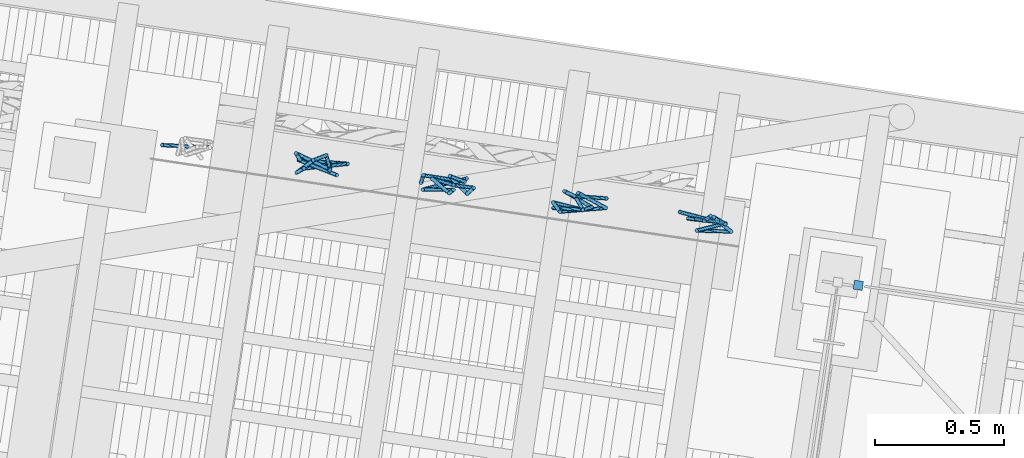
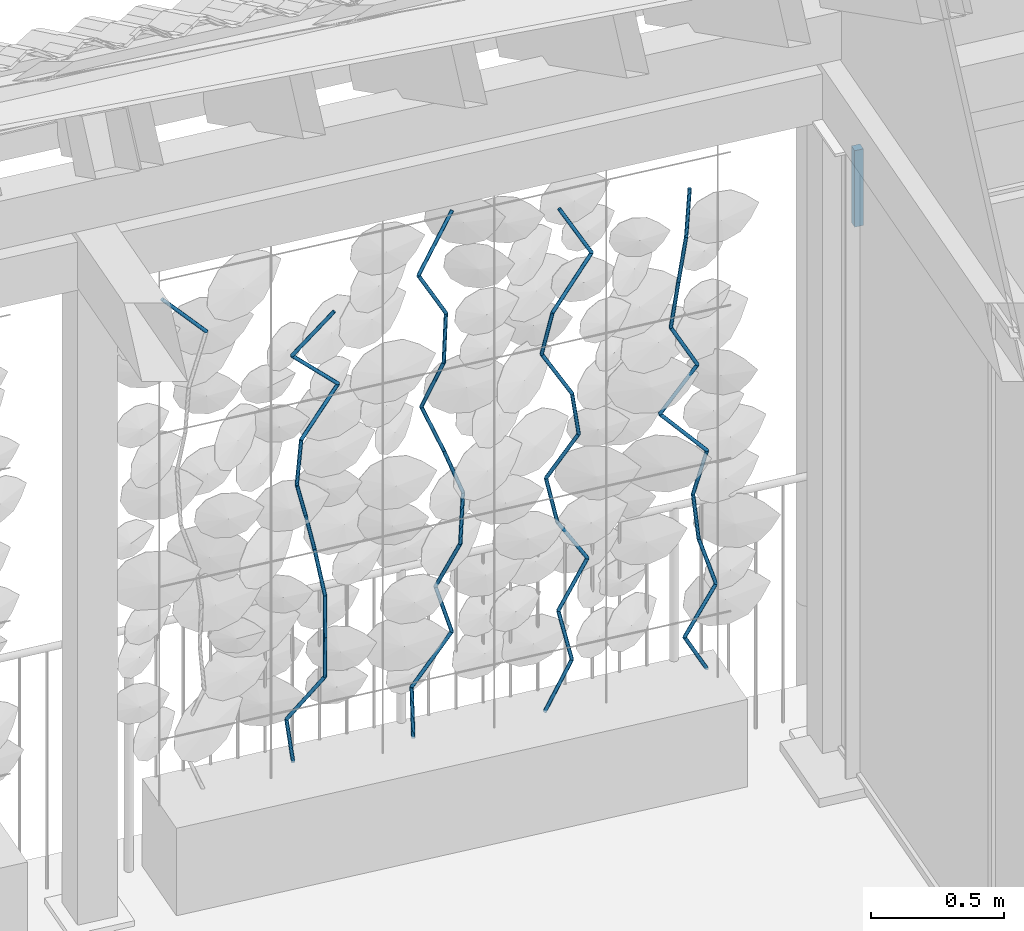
# One storey, part 109 of 131: 46 members, 1 element without a shape of its own.
"""IFC4 building model written with IfcOpenShell, lengths in metres."""

import ifcopenshell
import ifcopenshell.guid

model = None  # the IFC model being written
_history = None  # IfcOwnerHistory: only IFC2X3 demands one
_inside = {}  # id of a spatial element -> (the spatial element, [elements in it])
_under = {}  # id of a project, library or spatial element -> (it, [spatial elements below it])
_declared = {}  # id of a project -> (the project, [libraries it declares])
_typed = {}  # id of a type object -> (the type object, [elements of that type])
_made_of = {}  # id of a material, layer set ... -> (it, [elements and type objects made of it])


def new_model(schema):
    """Start an empty IFC model of exactly this schema.

    Asked for "IFC4X3", IfcOpenShell would pick the latest addendum, in which some entities
    have other attributes; the version numbers below select the first issue.
    IFC2X3 requires an IfcOwnerHistory on every rooted entity: one is made here for all.
    """
    global model, _history
    if schema == "IFC4X3":
        model = ifcopenshell.file(schema_version=(4, 3, 0, 0))
    else:
        model = ifcopenshell.file(schema=schema)
    _inside.clear()
    _under.clear()
    _declared.clear()
    _typed.clear()
    _made_of.clear()
    _history = None
    if model.schema == "IFC2X3":
        org = make("IfcOrganization", Name="unknown")
        user = make(
            "IfcPersonAndOrganization",
            ThePerson=make("IfcPerson", FamilyName="unknown"),
            TheOrganization=org,
        )
        app = make(
            "IfcApplication",
            ApplicationDeveloper=org,
            Version="unknown",
            ApplicationFullName="unknown",
            ApplicationIdentifier="unknown",
        )
        _history = make(
            "IfcOwnerHistory",
            OwningUser=user,
            OwningApplication=app,
            ChangeAction="ADDED",
            CreationDate=0,
        )
    return model


def make(cls, **values):
    """One entity of the class cls with the attributes given. An attribute that is None is left unset."""
    return model.create_entity(
        cls, **{name: value for name, value in values.items() if value is not None}
    )


def rooted(cls, **values):
    """An entity with a GlobalId (a new one), such as an element, a storey or a relation."""
    return make(cls, GlobalId=ifcopenshell.guid.new(), OwnerHistory=_history, **values)


def si_unit(unit_type, name, prefix=None):
    """IfcSIUnit, for example si_unit("LENGTHUNIT", "METRE", prefix="MILLI")."""
    return make("IfcSIUnit", UnitType=unit_type, Prefix=prefix, Name=name)


def assignment(units):
    """IfcUnitAssignment: the units of a project."""
    return None if units is None else make("IfcUnitAssignment", Units=units)


def point(xyz):
    """IfcCartesianPoint."""
    return None if xyz is None else make("IfcCartesianPoint", Coordinates=xyz)


def direction(xyz):
    """IfcDirection."""
    return None if xyz is None else make("IfcDirection", DirectionRatios=xyz)


def frame(location, z_axis=None, x_axis=None):
    """IfcAxis2Placement3D, a coordinate frame: its origin and axes. An axis left out is left unset."""
    return make(
        "IfcAxis2Placement3D",
        Location=point(location),
        Axis=direction(z_axis),
        RefDirection=direction(x_axis),
    )


def origin_with_axes():
    """The frame at (0, 0, 0) with the z axis (0, 0, 1) and the x axis (1, 0, 0) written out."""
    return frame((0.0, 0.0, 0.0), z_axis=(0.0, 0.0, 1.0), x_axis=(1.0, 0.0, 0.0))


def place(relative_to, where):
    """IfcLocalPlacement: puts the frame where relative to a parent placement (None: the world)."""
    return make(
        "IfcLocalPlacement", PlacementRelTo=relative_to, RelativePlacement=where
    )


def context(
    kind, dimensions, precision=None, world=None, true_north=None, identifier=None
):
    """IfcGeometricRepresentationContext, for example the 3D "Model" context."""
    return make(
        "IfcGeometricRepresentationContext",
        ContextIdentifier=identifier,
        ContextType=kind,
        CoordinateSpaceDimension=dimensions,
        Precision=precision,
        WorldCoordinateSystem=world,
        TrueNorth=true_north,
    )


def subcontext(parent, identifier, kind, view, scale=None):
    """IfcGeometricRepresentationSubContext, for example "Body" below "Model"."""
    return make(
        "IfcGeometricRepresentationSubContext",
        ContextIdentifier=identifier,
        ContextType=kind,
        ParentContext=parent,
        TargetScale=scale,
        TargetView=view,
    )


def project(units=None, contexts=None):
    """IfcProject with its units and contexts."""
    return rooted(
        "IfcProject",
        Name="project",
        RepresentationContexts=contexts,
        UnitsInContext=assignment(units),
    )


def spatial(cls, under=None, at=None, **own):
    """A site, building, storey or space (cls), placed at a placement, below another one or the project."""
    s = rooted(cls, ObjectPlacement=at, **own)
    if under is not None:
        _under.setdefault(under.id(), (under, []))[1].append(s)
    return s


def profile(cls, at=None, kind="AREA", **sizes):
    """A parametric profile (cls). Its sizes go by their IFC names, for example OverallWidth=200.0."""
    return make(cls, ProfileType=kind, Position=at, **sizes)


def rectangle(**sizes):
    """IfcRectangleProfileDef."""
    return profile("IfcRectangleProfileDef", **sizes)


def circle(**sizes):
    """IfcCircleProfileDef."""
    return profile("IfcCircleProfileDef", **sizes)


def extrude(swept, where, along, depth):
    """IfcExtrudedAreaSolid: the profile swept, set in the frame where, extruded along a direction by depth."""
    return make(
        "IfcExtrudedAreaSolid",
        SweptArea=swept,
        Position=where,
        ExtrudedDirection=direction(along),
        Depth=depth,
    )


def shape(context_of_items, identifier, shape_type, items):
    """IfcShapeRepresentation: the items that make up one representation, for example the "Body"."""
    return make(
        "IfcShapeRepresentation",
        ContextOfItems=context_of_items,
        RepresentationIdentifier=identifier,
        RepresentationType=shape_type,
        Items=items,
    )


def material(Name=None, Category=None):
    """IfcMaterial."""
    return make("IfcMaterial", Name=Name, Category=Category)


def material_profile(
    of_material, cross_section, Name=None, Category=None, Priority=None
):
    """IfcMaterialProfile: a cross section and its material."""
    return make(
        "IfcMaterialProfile",
        Name=Name,
        Material=of_material,
        Profile=cross_section,
        Priority=Priority,
        Category=Category,
    )


def profile_set(profiles, Name=None, composite=None):
    """IfcMaterialProfileSet."""
    return make(
        "IfcMaterialProfileSet",
        Name=Name,
        MaterialProfiles=profiles,
        CompositeProfile=composite,
    )


def profile_usage(for_profile_set, cardinal=None, extent=None):
    """IfcMaterialProfileSetUsage: how a profile set lies along its element."""
    return make(
        "IfcMaterialProfileSetUsage",
        ForProfileSet=for_profile_set,
        CardinalPoint=cardinal,
        ReferenceExtent=extent,
    )


def made_of(thing, what):
    """Note that an element or type object is made of a material, layer set ...; save() writes the relation."""
    if what is not None:
        _made_of.setdefault(what.id(), (what, []))[1].append(thing)
    return thing


def type_object(cls, material=None, **own):
    """A type object (cls), such as IfcWallType, which elements share."""
    return made_of(rooted(cls, **own), material)


def element(
    cls,
    number,
    at=None,
    inside=None,
    cuts=None,
    type_object=None,
    material=None,
    context=None,
    identifier="Body",
    shape_type=None,
    held_by="IfcProductDefinitionShape",
    body=None,
    shapes=None,
    **own,
):
    """One element of the class cls, such as IfcWall. Its Tag is "e" and its number.

    at: its placement. inside: the storey or other place that contains it. cuts: it is an
    opening in that element (IfcRelVoidsElement). A single representation is given by context,
    identifier, shape_type and body (its items); several are given by shapes. held_by: the class
    of the entity that holds the representations. save() writes the other relations.
    """
    e = rooted(cls, Tag="e%d" % number, ObjectPlacement=at, **own)
    if body is not None:
        shapes = [shape(context, identifier, shape_type, body)]
    if shapes is not None:
        e.Representation = make(held_by, Representations=shapes)
    if inside is not None:
        _inside.setdefault(inside.id(), (inside, []))[1].append(e)
    if cuts is not None:
        rooted(
            "IfcRelVoidsElement", RelatingBuildingElement=cuts, RelatedOpeningElement=e
        )
    if type_object is not None:
        _typed.setdefault(type_object.id(), (type_object, []))[1].append(e)
    return made_of(e, material)


def aggregate(whole, parts):
    """IfcRelAggregates: a whole, such as a stair, and the parts it consists of."""
    return rooted("IfcRelAggregates", RelatingObject=whole, RelatedObjects=parts)


def save(model, path):
    """Write the relations noted so far, then the file.

    IfcRelAggregates (storeys below a building ...), IfcRelContainedInSpatialStructure (elements
    in a storey), IfcRelDefinesByType, IfcRelAssociatesMaterial and IfcRelDeclares: one each for
    every whole, place, type object, material and project.
    """
    for whole, parts in _under.values():
        aggregate(whole, parts)
    for where, things in _inside.values():
        rooted(
            "IfcRelContainedInSpatialStructure",
            RelatedElements=things,
            RelatingStructure=where,
        )
    for kind, things in _typed.values():
        rooted("IfcRelDefinesByType", RelatedObjects=things, RelatingType=kind)
    for what, things in _made_of.values():
        rooted("IfcRelAssociatesMaterial", RelatedObjects=things, RelatingMaterial=what)
    for by, libraries in _declared.values():
        rooted("IfcRelDeclares", RelatingContext=by, RelatedDefinitions=libraries)
    model.write(path)


model = new_model("IFC4")

# Units and contexts
model_context = context("Model", 3, precision=1e-05, world=origin_with_axes(), true_north=direction((0.0, 1.0)))
body_context = subcontext(model_context, "Body", "Model", "MODEL_VIEW")
ifc_project = project(units=[si_unit("VOLUMEUNIT", "CUBIC_METRE"), si_unit("LENGTHUNIT", "METRE"), si_unit("AREAUNIT", "SQUARE_METRE")], contexts=[model_context])

# Site, building, storey
site_placement = place(None, origin_with_axes())
site = spatial("IfcSite", under=ifc_project, at=site_placement, Name="Lares · Rua das Mercês · artigo 4771")
building_placement = place(site_placement, frame((15.0, 9.7, 15.8), z_axis=(0.0, 0.0, 1.0), x_axis=(0.989015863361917, -0.147809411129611, 0.0)))
building = spatial("IfcBuilding", under=site, at=building_placement, Name="Casa Sobreposta")
storey_placement = place(building_placement, origin_with_axes())
storey = spatial("IfcBuildingStorey", under=building, at=storey_placement, Name="00 · Habitação e estacionamento", Elevation=15.8)

# Member
ifc_material_1 = material(Name="Aço pintado / Stahl lackiert", Category="steel")
ifc_material_profile_1 = material_profile(ifc_material_1, rectangle(XDim=0.035, YDim=0.035))
ifc_profile_set_1 = profile_set([ifc_material_profile_1], Name="R0.035")
ifc_profile_usage_1 = profile_usage(ifc_profile_set_1)
member_type_1 = type_object("IfcMemberType", Name="R0.035 / steel", PredefinedType="NOTDEFINED", material=ifc_profile_set_1)
member_1_placement = place(storey_placement, frame((0.08, 6.4, 2.35), z_axis=(0.0, 0.0, 1.0), x_axis=(1.0, 0.0, 0.0)))
element("IfcMember", 1, at=member_1_placement, inside=storey, type_object=member_type_1, material=ifc_profile_usage_1, Name="Rasgo norte 1 · montante", context=body_context, shape_type="SweptSolid", body=[
    extrude(rectangle(XDim=0.035, YDim=0.035), origin_with_axes(), (0.0, 0.0, 1.0), 0.35),
])

# Assembly, members
assembly_placement = place(storey_placement, origin_with_axes())
assembly = element("IfcElementAssembly", 2, at=assembly_placement, inside=storey, Name="Fachada sul e pátio · estrutura e trepadeiras", ObjectType="LIVING_SHADE_TRELLIS", PredefinedType="USERDEFINED")
ifc_material_2 = material(Name="Ramos de trepadeiras", Category="wood")
ifc_material_profile_2 = material_profile(ifc_material_2, circle(Radius=0.0075))
ifc_profile_set_2 = profile_set([ifc_material_profile_2], Name="D0.015")
ifc_profile_usage_2 = profile_usage(ifc_profile_set_2)
member_type_2 = type_object("IfcMemberType", Name="D0.015 / vine_wood", PredefinedType="NOTDEFINED", material=ifc_profile_set_2)
member_2_placement = place(assembly_placement, frame((-2.48019557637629, 6.55666589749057, 2.412926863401), z_axis=(-0.666168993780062, -0.0655606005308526, 0.742913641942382), x_axis=(-0.0979412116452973, 0.995192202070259, 0.0)))
member_2 = element("IfcMember", 3, at=member_2_placement, type_object=member_type_2, material=ifc_profile_usage_2, Name="Trepadeiras · ramo", context=body_context, shape_type="SweptSolid", body=[
    extrude(circle(Radius=0.0075), origin_with_axes(), (0.0, 0.0, 1.0), 0.277680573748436),
])
ifc_profile_usage_3 = profile_usage(ifc_profile_set_2)
member_3_placement = place(assembly_placement, frame((-2.12881280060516, 6.56112979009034, 0.35), z_axis=(-0.0978339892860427, 0.117862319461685, 0.988198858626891), x_axis=(0.769454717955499, 0.638701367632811, 0.0)))
member_3 = element("IfcMember", 4, at=member_3_placement, type_object=member_type_2, material=ifc_profile_usage_3, Name="Trepadeiras · ramo", context=body_context, shape_type="SweptSolid", body=[
    extrude(circle(Radius=0.0075), origin_with_axes(), (0.0, 0.0, 1.0), 0.188376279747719),
])
ifc_profile_usage_4 = profile_usage(ifc_profile_set_2)
member_4_placement = place(assembly_placement, frame((-2.14724240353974, 6.58333225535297, 0.536153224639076), z_axis=(0.587735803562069, -0.176646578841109, 0.789533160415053), x_axis=(-0.287834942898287, -0.95768003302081, 0.0)))
member_4 = element("IfcMember", 5, at=member_4_placement, type_object=member_type_2, material=ifc_profile_usage_4, Name="Trepadeiras · ramo", context=body_context, shape_type="SweptSolid", body=[
    extrude(circle(Radius=0.0075), origin_with_axes(), (0.0, 0.0, 1.0), 0.235776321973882),
])
ifc_profile_usage_5 = profile_usage(ifc_profile_set_2)
member_5_placement = place(assembly_placement, frame((-2.00866821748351, 6.54168317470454, 0.722306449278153), z_axis=(-0.00319895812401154, -0.025079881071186, 0.99968033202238), x_axis=(0.99999488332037, -8.02298998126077e-05, 0.0031979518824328)))
member_5 = element("IfcMember", 6, at=member_5_placement, type_object=member_type_2, material=ifc_profile_usage_5, Name="Trepadeiras · ramo", context=body_context, shape_type="SweptSolid", body=[
    extrude(circle(Radius=0.0075), origin_with_axes(), (0.0, 0.0, 1.0), 0.186212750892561),
])
ifc_profile_usage_6 = profile_usage(ifc_profile_set_2)
member_6_placement = place(assembly_placement, frame((-2.00926390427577, 6.53701298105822, 0.908459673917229), z_axis=(0.00638824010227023, 0.031882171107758, 0.999471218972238), x_axis=(0.999979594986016, -0.000203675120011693, -0.00638499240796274)))
member_6 = element("IfcMember", 7, at=member_6_placement, type_object=member_type_2, material=ifc_profile_usage_6, Name="Trepadeiras · ramo", context=body_context, shape_type="SweptSolid", body=[
    extrude(circle(Radius=0.0075), origin_with_axes(), (0.0, 0.0, 1.0), 0.186251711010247),
])
ifc_profile_usage_7 = profile_usage(ifc_profile_set_2)
member_7_placement = place(assembly_placement, frame((-2.00807408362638, 6.54295108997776, 1.09461289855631), z_axis=(-0.116941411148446, 0.258900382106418, 0.958798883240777), x_axis=(0.911345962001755, 0.411641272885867, 0.0)))
member_7 = element("IfcMember", 8, at=member_7_placement, type_object=member_type_2, material=ifc_profile_usage_7, Name="Trepadeiras · ramo", context=body_context, shape_type="SweptSolid", body=[
    extrude(circle(Radius=0.0075), origin_with_axes(), (0.0, 0.0, 1.0), 0.194152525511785),
])
ifc_profile_usage_8 = profile_usage(ifc_profile_set_2)
member_8_placement = place(assembly_placement, frame((-2.03077855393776, 6.59321725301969, 1.28076612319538), z_axis=(-0.242041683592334, -0.138462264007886, 0.9603353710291), x_axis=(-0.496551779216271, 0.868007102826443, 2.38971597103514e-17)))
member_8 = element("IfcMember", 9, at=member_8_placement, type_object=member_type_2, material=ifc_profile_usage_8, Name="Trepadeiras · ramo", context=body_context, shape_type="SweptSolid", body=[
    extrude(circle(Radius=0.0075), origin_with_axes(), (0.0, 0.0, 1.0), 0.193841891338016),
])
ifc_profile_usage_9 = profile_usage(ifc_profile_set_2)
member_9_placement = place(assembly_placement, frame((-2.07769637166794, 6.56637746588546, 1.46691934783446), z_axis=(-0.278600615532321, -0.277896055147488, 0.919323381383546), x_axis=(-0.7062109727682, 0.708001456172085, 3.24220616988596e-17)))
member_9 = element("IfcMember", 10, at=member_9_placement, type_object=member_type_2, material=ifc_profile_usage_9, Name="Trepadeiras · ramo", context=body_context, shape_type="SweptSolid", body=[
    extrude(circle(Radius=0.0075), origin_with_axes(), (0.0, 0.0, 1.0), 0.202489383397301),
])
ifc_profile_usage_10 = profile_usage(ifc_profile_set_2)
member_10_placement = place(assembly_placement, frame((-2.13411003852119, 6.5101064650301, 1.65307257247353), z_axis=(0.135286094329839, 0.106592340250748, 0.985056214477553), x_axis=(0.618884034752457, -0.785482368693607, 0.0)))
member_10 = element("IfcMember", 11, at=member_10_placement, type_object=member_type_2, material=ifc_profile_usage_10, Name="Trepadeiras · ramo", context=body_context, shape_type="SweptSolid", body=[
    extrude(circle(Radius=0.0075), origin_with_axes(), (0.0, 0.0, 1.0), 0.188977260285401),
])
ifc_profile_usage_11 = profile_usage(ifc_profile_set_2)
member_11_placement = place(assembly_placement, frame((-2.10854404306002, 6.53024999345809, 1.83922579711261), z_axis=(0.655164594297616, 0.169762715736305, 0.736165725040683), x_axis=(0.250830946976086, -0.968030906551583, 0.0)))
member_11 = element("IfcMember", 12, at=member_11_placement, type_object=member_type_2, material=ifc_profile_usage_11, Name="Trepadeiras · ramo", context=body_context, shape_type="SweptSolid", body=[
    extrude(circle(Radius=0.0075), origin_with_axes(), (0.0, 0.0, 1.0), 0.252868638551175),
])
ifc_profile_usage_12 = profile_usage(ifc_profile_set_2)
member_12_placement = place(assembly_placement, frame((-1.94287346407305, 6.57317766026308, 2.02537902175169), z_axis=(-0.716183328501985, -0.0508556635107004, 0.696056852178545), x_axis=(-0.070830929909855, 0.997488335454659, 0.0)))
member_12 = element("IfcMember", 13, at=member_12_placement, type_object=member_type_2, material=ifc_profile_usage_12, Name="Trepadeiras · ramo", context=body_context, shape_type="SweptSolid", body=[
    extrude(circle(Radius=0.0075), origin_with_axes(), (0.0, 0.0, 1.0), 0.267439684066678),
])
ifc_profile_usage_13 = profile_usage(ifc_profile_set_2)
member_13_placement = place(assembly_placement, frame((-2.13440930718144, 6.55957683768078, 2.21153224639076), z_axis=(0.63529697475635, -0.147614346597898, 0.758028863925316), x_axis=(-0.226325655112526, -0.974051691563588, 0.0)))
member_13 = element("IfcMember", 14, at=member_13_placement, type_object=member_type_2, material=ifc_profile_usage_13, Name="Trepadeiras · ramo", context=body_context, shape_type="SweptSolid", body=[
    extrude(circle(Radius=0.0075), origin_with_axes(), (0.0, 0.0, 1.0), 0.245575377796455),
])
ifc_profile_usage_14 = profile_usage(ifc_profile_set_2)
member_14_placement = place(assembly_placement, frame((-1.65199324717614, 6.54323763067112, 0.35), z_axis=(0.0217356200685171, 0.135043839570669, 0.990601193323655), x_axis=(0.987293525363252, -0.158907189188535, 0.0)))
member_14 = element("IfcMember", 15, at=member_14_placement, type_object=member_type_2, material=ifc_profile_usage_14, Name="Trepadeiras · ramo", context=body_context, shape_type="SweptSolid", body=[
    extrude(circle(Radius=0.0075), origin_with_axes(), (0.0, 0.0, 1.0), 0.214939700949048),
])
ifc_profile_usage_15 = profile_usage(ifc_profile_set_2)
member_15_placement = place(assembly_placement, frame((-1.64732139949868, 6.57226391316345, 0.562919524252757), z_axis=(0.604182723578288, -0.0026727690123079, 0.796841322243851), x_axis=(-0.00442373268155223, -0.99999021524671, 2.8598256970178e-19)))
member_15 = element("IfcMember", 16, at=member_15_placement, type_object=member_type_2, material=ifc_profile_usage_15, Name="Trepadeiras · ramo", context=body_context, shape_type="SweptSolid", body=[
    extrude(circle(Radius=0.0075), origin_with_axes(), (0.0, 0.0, 1.0), 0.267204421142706),
])
ifc_profile_usage_16 = profile_usage(ifc_profile_set_2)
member_16_placement = place(assembly_placement, frame((-1.48588110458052, 6.57154973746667, 0.775839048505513), z_axis=(-0.273756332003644, 0.0590464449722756, 0.959984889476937), x_axis=(0.210841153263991, 0.97752033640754, 0.0)))
member_16 = element("IfcMember", 17, at=member_16_placement, type_object=member_type_2, material=ifc_profile_usage_16, Name="Trepadeiras · ramo", context=body_context, shape_type="SweptSolid", body=[
    extrude(circle(Radius=0.0075), origin_with_axes(), (0.0, 0.0, 1.0), 0.221794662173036),
])
ifc_profile_usage_17 = profile_usage(ifc_profile_set_2)
member_17_placement = place(assembly_placement, frame((-1.54659879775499, 6.58464592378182, 0.98875857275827), z_axis=(0.331473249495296, -0.245286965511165, 0.911021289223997), x_axis=(-0.594837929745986, -0.80384565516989, 0.0)))
member_17 = element("IfcMember", 18, at=member_17_placement, type_object=member_type_2, material=ifc_profile_usage_17, Name="Trepadeiras · ramo", context=body_context, shape_type="SweptSolid", body=[
    extrude(circle(Radius=0.0075), origin_with_axes(), (0.0, 0.0, 1.0), 0.233715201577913),
])
ifc_profile_usage_18 = profile_usage(ifc_profile_set_2)
member_18_placement = place(assembly_placement, frame((-1.46912846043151, 6.52731863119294, 1.20167809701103), z_axis=(0.0979338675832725, 0.120047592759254, 0.987925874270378), x_axis=(0.774864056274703, -0.63212790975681, 0.0)))
member_18 = element("IfcMember", 19, at=member_18_placement, type_object=member_type_2, material=ifc_profile_usage_18, Name="Trepadeiras · ramo", context=body_context, shape_type="SweptSolid", body=[
    extrude(circle(Radius=0.0075), origin_with_axes(), (0.0, 0.0, 1.0), 0.215521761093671),
])
ifc_profile_usage_19 = profile_usage(ifc_profile_set_2)
member_19_placement = place(assembly_placement, frame((-1.44802158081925, 6.55319149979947, 1.41459762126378), z_axis=(-0.345783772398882, -0.00554525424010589, 0.938297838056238), x_axis=(-0.0160347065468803, 0.999871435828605, 0.0)))
member_19 = element("IfcMember", 20, at=member_19_placement, type_object=member_type_2, material=ifc_profile_usage_19, Name="Trepadeiras · ramo", context=body_context, shape_type="SweptSolid", body=[
    extrude(circle(Radius=0.0075), origin_with_axes(), (0.0, 0.0, 1.0), 0.226921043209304),
])
ifc_profile_usage_20 = profile_usage(ifc_profile_set_2)
member_20_placement = place(assembly_placement, frame((-1.52648719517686, 6.55193316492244, 1.62751714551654), z_axis=(-0.370168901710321, 0.0545287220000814, 0.92736271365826), x_axis=(0.145734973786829, 0.989323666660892, 0.0)))
member_20 = element("IfcMember", 21, at=member_20_placement, type_object=member_type_2, material=ifc_profile_usage_20, Name="Trepadeiras · ramo", context=body_context, shape_type="SweptSolid", body=[
    extrude(circle(Radius=0.0075), origin_with_axes(), (0.0, 0.0, 1.0), 0.229596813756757),
])
ifc_profile_usage_21 = profile_usage(ifc_profile_set_2)
member_21_placement = place(assembly_placement, frame((-1.61147679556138, 6.56445278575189, 1.8404366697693), z_axis=(0.316430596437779, -0.198840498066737, 0.927541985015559), x_axis=(-0.532058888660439, -0.846707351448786, 0.0)))
member_21 = element("IfcMember", 22, at=member_21_placement, type_object=member_type_2, material=ifc_profile_usage_21, Name="Trepadeiras · ramo", context=body_context, shape_type="SweptSolid", body=[
    extrude(circle(Radius=0.0075), origin_with_axes(), (0.0, 0.0, 1.0), 0.22955243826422),
])
ifc_profile_usage_22 = profile_usage(ifc_profile_set_2)
member_22_placement = place(assembly_placement, frame((-1.53883938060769, 6.518808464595, 2.05335619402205), z_axis=(0.0684634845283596, 0.0708908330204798, 0.995131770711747), x_axis=(0.719314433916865, -0.694684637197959, 0.0)))
member_22 = element("IfcMember", 23, at=member_22_placement, type_object=member_type_2, material=ifc_profile_usage_22, Name="Trepadeiras · ramo", context=body_context, shape_type="SweptSolid", body=[
    extrude(circle(Radius=0.0075), origin_with_axes(), (0.0, 0.0, 1.0), 0.213961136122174),
])
ifc_profile_usage_23 = profile_usage(ifc_profile_set_2)
member_23_placement = place(assembly_placement, frame((-1.52419085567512, 6.53397634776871, 2.26627571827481), z_axis=(-0.482299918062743, -0.0693559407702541, 0.873256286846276), x_axis=(-0.142338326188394, 0.989818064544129, 0.0)))
member_23 = element("IfcMember", 24, at=member_23_placement, type_object=member_type_2, material=ifc_profile_usage_23, Name="Trepadeiras · ramo", context=body_context, shape_type="SweptSolid", body=[
    extrude(circle(Radius=0.0075), origin_with_axes(), (0.0, 0.0, 1.0), 0.243822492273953),
])
ifc_profile_usage_24 = profile_usage(ifc_profile_set_2)
member_24_placement = place(assembly_placement, frame((-1.6417864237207, 6.5170658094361, 2.47919524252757), z_axis=(0.588758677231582, 0.246174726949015, 0.769909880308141), x_axis=(0.385761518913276, -0.922598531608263, 0.0)))
member_24 = element("IfcMember", 25, at=member_24_placement, type_object=member_type_2, material=ifc_profile_usage_24, Name="Trepadeiras · ramo", context=body_context, shape_type="SweptSolid", body=[
    extrude(circle(Radius=0.0075), origin_with_axes(), (0.0, 0.0, 1.0), 0.276551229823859),
])
ifc_profile_usage_25 = profile_usage(ifc_profile_set_2)
member_25_placement = place(assembly_placement, frame((-1.13184917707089, 6.52103550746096, 0.35), z_axis=(0.489881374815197, 0.0482992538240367, 0.870450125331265), x_axis=(0.0981180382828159, -0.995174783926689, 0.0)))
member_25 = element("IfcMember", 26, at=member_25_placement, type_object=member_type_2, material=ifc_profile_usage_25, Name="Trepadeiras · ramo", context=body_context, shape_type="SweptSolid", body=[
    extrude(circle(Radius=0.0075), origin_with_axes(), (0.0, 0.0, 1.0), 0.233069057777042),
])
ifc_profile_usage_26 = profile_usage(ifc_profile_set_2)
member_26_placement = place(assembly_placement, frame((-1.01767298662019, 6.53229256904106, 0.552874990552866), z_axis=(-0.173785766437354, 0.21844401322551, 0.960250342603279), x_axis=(0.78256006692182, 0.622575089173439, 0.0)))
member_26 = element("IfcMember", 27, at=member_26_placement, type_object=member_type_2, material=ifc_profile_usage_26, Name="Trepadeiras · ramo", context=body_context, shape_type="SweptSolid", body=[
    extrude(circle(Radius=0.0075), origin_with_axes(), (0.0, 0.0, 1.0), 0.211273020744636),
])
ifc_profile_usage_27 = profile_usage(ifc_profile_set_2)
member_27_placement = place(assembly_placement, frame((-1.05438923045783, 6.5784438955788, 0.755749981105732), z_axis=(0.51379031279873, 0.0427134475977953, 0.856851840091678), x_axis=(0.0828482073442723, -0.99656217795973, 0.0)))
member_27 = element("IfcMember", 28, at=member_27_placement, type_object=member_type_2, material=ifc_profile_usage_27, Name="Trepadeiras · ramo", context=body_context, shape_type="SweptSolid", body=[
    extrude(circle(Radius=0.0075), origin_with_axes(), (0.0, 0.0, 1.0), 0.236767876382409),
])
ifc_profile_usage_28 = profile_usage(ifc_profile_set_2)
member_28_placement = place(assembly_placement, frame((-0.932740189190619, 6.5885570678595, 0.958624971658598), z_axis=(-0.524655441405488, -0.0395771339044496, 0.850394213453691), x_axis=(-0.0752208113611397, 0.99716690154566, 0.0)))
member_28 = element("IfcMember", 29, at=member_28_placement, type_object=member_type_2, material=ifc_profile_usage_28, Name="Trepadeiras · ramo", context=body_context, shape_type="SweptSolid", body=[
    extrude(circle(Radius=0.0075), origin_with_axes(), (0.0, 0.0, 1.0), 0.238565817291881),
])
ifc_profile_usage_29 = profile_usage(ifc_profile_set_2)
member_29_placement = place(assembly_placement, frame((-1.05790504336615, 6.57911531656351, 1.16149996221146), z_axis=(-0.196191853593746, 0.0616584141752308, 0.978625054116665), x_axis=(0.299818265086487, 0.95399633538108, 0.0)))
member_29 = element("IfcMember", 30, at=member_29_placement, type_object=member_type_2, material=ifc_profile_usage_29, Name="Trepadeiras · ramo", context=body_context, shape_type="SweptSolid", body=[
    extrude(circle(Radius=0.0075), origin_with_axes(), (0.0, 0.0, 1.0), 0.207306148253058),
])
ifc_profile_usage_30 = profile_usage(ifc_profile_set_2)
member_30_placement = place(assembly_placement, frame((-1.0985768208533, 6.59189748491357, 1.36437495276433), z_axis=(0.480884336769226, -0.19096728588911, 0.855734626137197), x_axis=(-0.369079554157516, -0.929397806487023, 0.0)))
member_30 = element("IfcMember", 31, at=member_30_placement, type_object=member_type_2, material=ifc_profile_usage_30, Name="Trepadeiras · ramo", context=body_context, shape_type="SweptSolid", body=[
    extrude(circle(Radius=0.0075), origin_with_axes(), (0.0, 0.0, 1.0), 0.237076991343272),
])
ifc_profile_usage_31 = profile_usage(ifc_profile_set_2)
member_31_placement = place(assembly_placement, frame((-0.984570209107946, 6.54662353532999, 1.5672499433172), z_axis=(-0.160191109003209, -0.0749405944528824, 0.984237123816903), x_axis=(-0.42374307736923, 0.905782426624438, 0.0)))
member_31 = element("IfcMember", 32, at=member_31_placement, type_object=member_type_2, material=ifc_profile_usage_31, Name="Trepadeiras · ramo", context=body_context, shape_type="SweptSolid", body=[
    extrude(circle(Radius=0.0075), origin_with_axes(), (0.0, 0.0, 1.0), 0.206124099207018),
])
ifc_profile_usage_32 = profile_usage(ifc_profile_set_2)
member_32_placement = place(assembly_placement, frame((-1.01758945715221, 6.53117647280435, 1.77012493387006), z_axis=(-0.501321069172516, 0.0491421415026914, 0.863864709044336), x_axis=(0.097557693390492, 0.995229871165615, 0.0)))
member_32 = element("IfcMember", 33, at=member_32_placement, type_object=member_type_2, material=ifc_profile_usage_32, Name="Trepadeiras · ramo", context=body_context, shape_type="SweptSolid", body=[
    extrude(circle(Radius=0.0075), origin_with_axes(), (0.0, 0.0, 1.0), 0.23484579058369),
])
ifc_profile_usage_33 = profile_usage(ifc_profile_set_2)
member_33_placement = place(assembly_placement, frame((-1.13532259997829, 6.54271729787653, 1.97299992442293), z_axis=(0.153315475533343, -0.151547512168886, 0.976487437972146), x_axis=(-0.702994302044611, -0.711195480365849, 0.0)))
member_33 = element("IfcMember", 34, at=member_33_placement, type_object=member_type_2, material=ifc_profile_usage_33, Name="Trepadeiras · ramo", context=body_context, shape_type="SweptSolid", body=[
    extrude(circle(Radius=0.0075), origin_with_axes(), (0.0, 0.0, 1.0), 0.207759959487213),
])
ifc_profile_usage_34 = profile_usage(ifc_profile_set_2)
member_34_placement = place(assembly_placement, frame((-1.10346978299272, 6.51123179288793, 2.17587491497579), z_axis=(0.641894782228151, 0.149544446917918, 0.752068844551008), x_axis=(0.226897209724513, -0.973918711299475, 0.0)))
member_34 = element("IfcMember", 35, at=member_34_placement, type_object=member_type_2, material=ifc_profile_usage_34, Name="Trepadeiras · ramo", context=body_context, shape_type="SweptSolid", body=[
    extrude(circle(Radius=0.0075), origin_with_axes(), (0.0, 0.0, 1.0), 0.269755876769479),
])
ifc_profile_usage_35 = profile_usage(ifc_profile_set_2)
member_35_placement = place(assembly_placement, frame((-0.930314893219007, 6.55157228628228, 2.37874990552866), z_axis=(-0.483713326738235, 0.176708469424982, 0.857202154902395), x_axis=(0.343136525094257, 0.939285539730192, 0.0)))
member_35 = element("IfcMember", 36, at=member_35_placement, type_object=member_type_2, material=ifc_profile_usage_35, Name="Trepadeiras · ramo", context=body_context, shape_type="SweptSolid", body=[
    extrude(circle(Radius=0.0075), origin_with_axes(), (0.0, 0.0, 1.0), 0.23667111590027),
])
ifc_profile_usage_36 = profile_usage(ifc_profile_set_2)
member_36_placement = place(assembly_placement, frame((-0.462630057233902, 6.56138224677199, 0.35), z_axis=(-0.464622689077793, -0.191575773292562, 0.864537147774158), x_axis=(-0.381193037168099, 0.924495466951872, 0.0)))
member_36 = element("IfcMember", 37, at=member_36_placement, type_object=member_type_2, material=ifc_profile_usage_36, Name="Trepadeiras · ramo", context=body_context, shape_type="SweptSolid", body=[
    extrude(circle(Radius=0.0075), origin_with_axes(), (0.0, 0.0, 1.0), 0.231312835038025),
])
ifc_profile_usage_37 = profile_usage(ifc_profile_set_2)
member_37_placement = place(assembly_placement, frame((-0.570103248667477, 6.51706831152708, 0.549978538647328), z_axis=(0.553376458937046, 0.0667241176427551, 0.830254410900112), x_axis=(0.119709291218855, -0.992808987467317, 0.0)))
member_37 = element("IfcMember", 38, at=member_37_placement, type_object=member_type_2, material=ifc_profile_usage_37, Name="Trepadeiras · ramo", context=body_context, shape_type="SweptSolid", body=[
    extrude(circle(Radius=0.0075), origin_with_axes(), (0.0, 0.0, 1.0), 0.240864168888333),
])
ifc_profile_usage_38 = profile_usage(ifc_profile_set_2)
member_38_placement = place(assembly_placement, frame((-0.436814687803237, 6.53313976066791, 0.749957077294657), z_axis=(-0.271615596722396, 0.154438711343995, 0.949933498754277), x_axis=(0.494279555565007, 0.869303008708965, 0.0)))
member_38 = element("IfcMember", 39, at=member_38_placement, type_object=member_type_2, material=ifc_profile_usage_38, Name="Trepadeiras · ramo", context=body_context, shape_type="SweptSolid", body=[
    extrude(circle(Radius=0.0075), origin_with_axes(), (0.0, 0.0, 1.0), 0.210518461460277),
])
ifc_profile_usage_39 = profile_usage(ifc_profile_set_2)
member_39_placement = place(assembly_placement, frame((-0.49399478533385, 6.56565196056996, 0.949935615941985), z_axis=(-0.0877922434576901, 0.0636937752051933, 0.994100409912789), x_axis=(0.587235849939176, 0.809415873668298, 0.0)))
member_39 = element("IfcMember", 40, at=member_39_placement, type_object=member_type_2, material=ifc_profile_usage_39, Name="Trepadeiras · ramo", context=body_context, shape_type="SweptSolid", body=[
    extrude(circle(Radius=0.0075), origin_with_axes(), (0.0, 0.0, 1.0), 0.201165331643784),
])
ifc_profile_usage_40 = profile_usage(ifc_profile_set_2)
member_40_placement = place(assembly_placement, frame((-0.511655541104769, 6.57846493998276, 1.14991415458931), z_axis=(0.234286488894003, -0.097748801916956, 0.967240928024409), x_axis=(-0.38504977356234, -0.922895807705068, 0.0)))
member_40 = element("IfcMember", 41, at=member_40_placement, type_object=member_type_2, material=ifc_profile_usage_40, Name="Trepadeiras · ramo", context=body_context, shape_type="SweptSolid", body=[
    extrude(circle(Radius=0.0075), origin_with_axes(), (0.0, 0.0, 1.0), 0.206751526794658),
])
ifc_profile_usage_41 = profile_usage(ifc_profile_set_2)
member_41_placement = place(assembly_placement, frame((-0.463216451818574, 6.55825522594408, 1.34989269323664), z_axis=(-0.67132350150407, 0.0751228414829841, 0.737347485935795), x_axis=(0.111208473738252, 0.993797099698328, 0.0)))
member_41 = element("IfcMember", 42, at=member_41_placement, type_object=member_type_2, material=ifc_profile_usage_41, Name="Trepadeiras · ramo", context=body_context, shape_type="SweptSolid", body=[
    extrude(circle(Radius=0.0075), origin_with_axes(), (0.0, 0.0, 1.0), 0.271213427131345),
])
ifc_profile_usage_42 = profile_usage(ifc_profile_set_2)
member_42_placement = place(assembly_placement, frame((-0.645288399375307, 6.57862954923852, 1.54987123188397), z_axis=(0.585662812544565, -0.0678966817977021, 0.807706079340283), x_axis=(-0.115160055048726, -0.993346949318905, 0.0)))
member_42 = element("IfcMember", 43, at=member_42_placement, type_object=member_type_2, material=ifc_profile_usage_42, Name="Trepadeiras · ramo", context=body_context, shape_type="SweptSolid", body=[
    extrude(circle(Radius=0.0075), origin_with_axes(), (0.0, 0.0, 1.0), 0.247588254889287),
])
ifc_profile_usage_43 = profile_usage(ifc_profile_set_2)
member_43_placement = place(assembly_placement, frame((-0.500285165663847, 6.56181912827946, 1.7498497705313), z_axis=(-0.477939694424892, -0.0167916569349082, 0.878232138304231), x_axis=(-0.0351117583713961, 0.999383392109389, 0.0)))
member_43 = element("IfcMember", 44, at=member_43_placement, type_object=member_type_2, material=ifc_profile_usage_43, Name="Trepadeiras · ramo", context=body_context, shape_type="SweptSolid", body=[
    extrude(circle(Radius=0.0075), origin_with_axes(), (0.0, 0.0, 1.0), 0.227705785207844),
])
ifc_profile_usage_44 = profile_usage(ifc_profile_set_2)
member_44_placement = place(assembly_placement, frame((-0.609114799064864, 6.55799557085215, 1.94982830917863), z_axis=(0.158846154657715, 0.0160243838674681, 0.987173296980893), x_axis=(0.100370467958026, -0.994950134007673, 2.68156465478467e-18)))
member_44 = element("IfcMember", 45, at=member_44_placement, type_object=member_type_2, material=ifc_profile_usage_44, Name="Trepadeiras · ramo", context=body_context, shape_type="SweptSolid", body=[
    extrude(circle(Radius=0.0075), origin_with_axes(), (0.0, 0.0, 1.0), 0.202576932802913),
])
ifc_profile_usage_45 = profile_usage(ifc_profile_set_2)
member_45_placement = place(assembly_placement, frame((-0.576936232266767, 6.56124174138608, 2.14980684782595), z_axis=(0.148653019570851, -0.0126053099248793, 0.988809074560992), x_axis=(-0.0844936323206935, -0.996424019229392, 1.43721971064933e-18)))
member_45 = element("IfcMember", 46, at=member_45_placement, type_object=member_type_2, material=ifc_profile_usage_45, Name="Trepadeiras · ramo", context=body_context, shape_type="SweptSolid", body=[
    extrude(circle(Radius=0.0075), origin_with_axes(), (0.0, 0.0, 1.0), 0.202241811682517),
])
ifc_profile_usage_46 = profile_usage(ifc_profile_set_2)
member_46_placement = place(assembly_placement, frame((-0.546872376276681, 6.55869242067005, 2.34978538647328), z_axis=(0.112990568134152, 0.108679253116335, 0.987634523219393), x_axis=(0.693222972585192, -0.720723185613, 0.0)))
member_46 = element("IfcMember", 47, at=member_46_placement, type_object=member_type_2, material=ifc_profile_usage_46, Name="Trepadeiras · ramo", context=body_context, shape_type="SweptSolid", body=[
    extrude(circle(Radius=0.0075), origin_with_axes(), (0.0, 0.0, 1.0), 0.202482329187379),
])
aggregate(assembly, [member_2, member_3, member_4, member_5, member_6, member_7, member_8, member_9, member_10, member_11, member_12, member_13, member_14, member_15, member_16, member_17, member_18, member_19, member_20, member_21, member_22, member_23, member_24, member_25, member_26, member_27, member_28, member_29, member_30, member_31, member_32, member_33, member_34, member_35, member_36, member_37, member_38, member_39, member_40, member_41, member_42, member_43, member_44, member_45, member_46])

save(model, "model.ifc")
